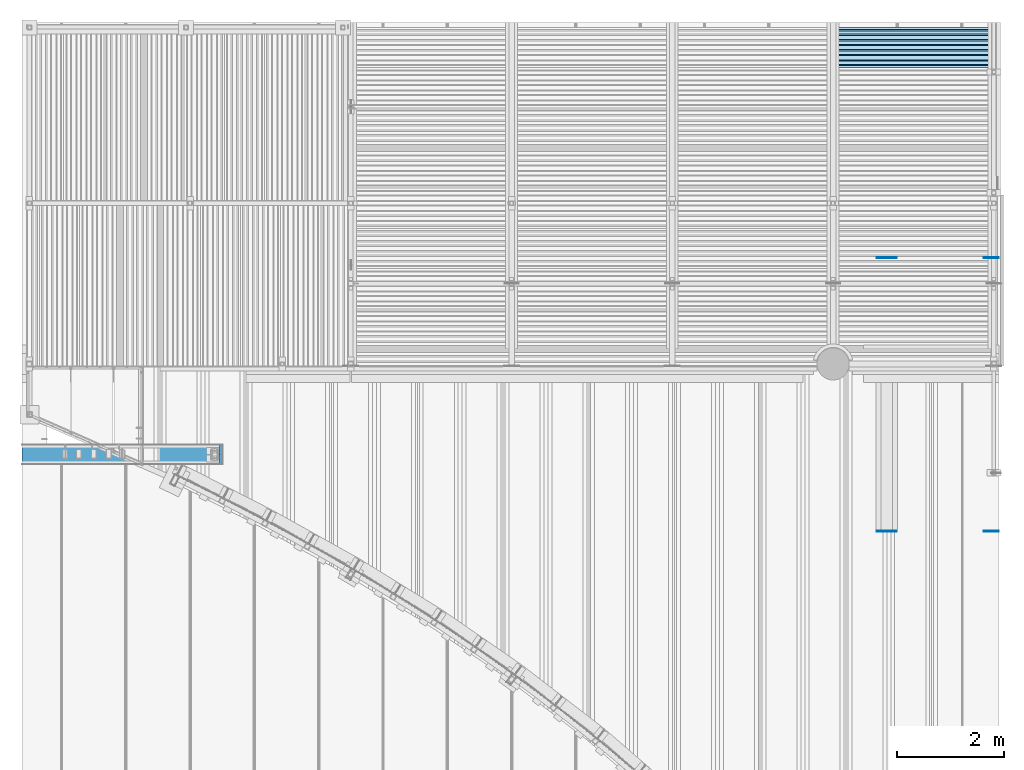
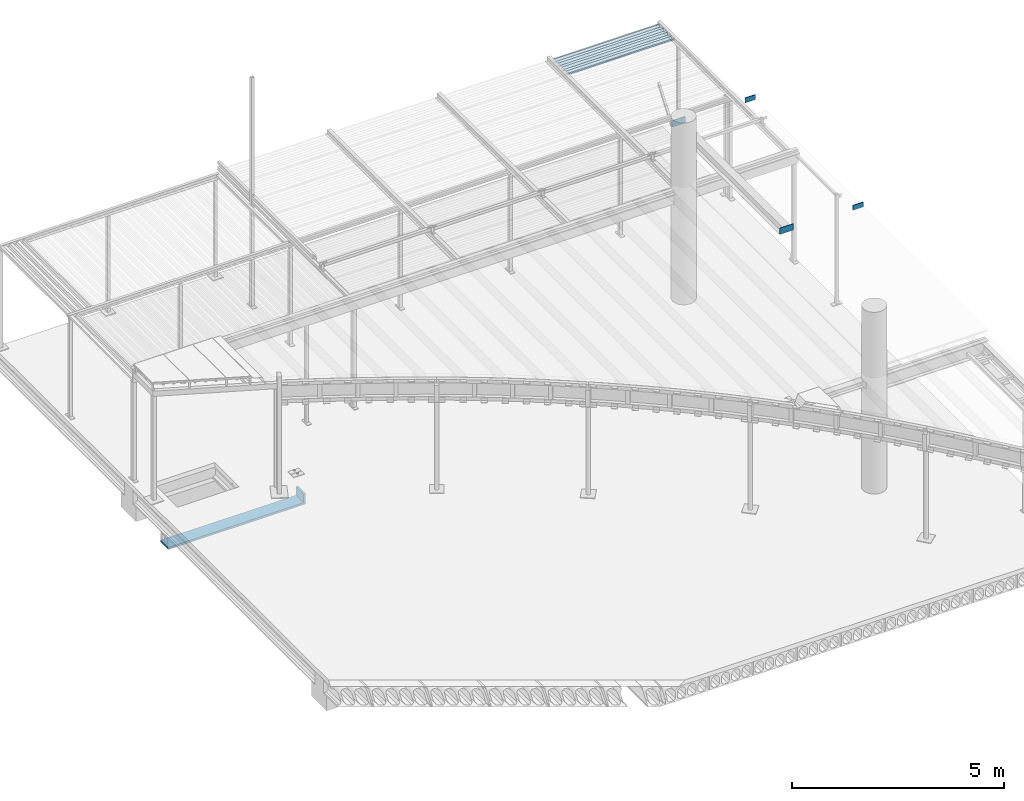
# One storey, part 98 of 98: 8 plates, 2 slabs, 1 wall.
"""IFC2X3 building model written with IfcOpenShell, lengths in millimetres."""

from ifc_helpers import new_model, entity, si_unit, converted_unit, derived_unit, direction, frame, origin_with_axes, place, context, subcontext, project, spatial, faceted_brep, material, type_object, element, save


model = new_model("IFC2X3")

# Units and contexts
model_context = context("Model", 3, precision=0.01, world=frame((0.0, 4.29681676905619e-09, 0.0)), true_north=direction((4.01073788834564e-13, 1.0)))
plan_context = context("Plan", 3, precision=0.01, world=frame((0.0, 4.29681676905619e-09, 0.0)), true_north=direction((4.01073788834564e-13, 1.0)))
body_context = subcontext(model_context, "Body", "Model", "MODEL_VIEW")
ifc_project = project(units=[converted_unit("PLANEANGLEUNIT", "DEGREE", entity("IfcPositiveLengthMeasure", 0.0174532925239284), si_unit("PLANEANGLEUNIT", "RADIAN"), dimensions=[0, 0, 0, 0, 0, 0, 0]), si_unit("AREAUNIT", "SQUARE_METRE"), si_unit("LENGTHUNIT", "METRE", prefix="MILLI"), si_unit("MASSUNIT", "GRAM", prefix="KILO"), si_unit("POWERUNIT", "WATT"), si_unit("PRESSUREUNIT", "PASCAL"), si_unit("FORCEUNIT", "NEWTON", prefix="KILO"), si_unit("ELECTRICCURRENTUNIT", "AMPERE"), si_unit("THERMODYNAMICTEMPERATUREUNIT", "DEGREE_CELSIUS"), si_unit("TIMEUNIT", "SECOND"), si_unit("VOLUMEUNIT", "CUBIC_METRE"), derived_unit("LINEARVELOCITYUNIT", [(si_unit("LENGTHUNIT", "METRE"), 1), (si_unit("TIMEUNIT", "SECOND"), -1)]), derived_unit("VOLUMETRICFLOWRATEUNIT", [(si_unit("VOLUMEUNIT", "CUBIC_METRE"), 1), (si_unit("TIMEUNIT", "SECOND"), -1)]), derived_unit("THERMALTRANSMITTANCEUNIT", [(si_unit("POWERUNIT", "WATT"), 1), (si_unit("THERMODYNAMICTEMPERATUREUNIT", "KELVIN"), -1), (si_unit("AREAUNIT", "SQUARE_METRE"), -1)])], contexts=[model_context, plan_context])

# Site, building, storey
site_placement = place(None, frame((0.0, -4.29681676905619e-09, 0.0), z_axis=(0.0, 0.0, 1.0), x_axis=(1.0, 0.0, 0.0)))
site = spatial("IfcSite", under=ifc_project, at=site_placement, Name="Gardermoen", CompositionType="ELEMENT")
building_placement = place(site_placement, frame((0.0, 4.29681676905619e-09, 0.0), z_axis=(0.0, 0.0, 1.0), x_axis=(1.0, 0.0, 0.0)))
building = spatial("IfcBuilding", under=site, at=building_placement, Name="TS", CompositionType="ELEMENT")
storey_placement = place(building_placement, origin_with_axes())
storey = spatial("IfcBuildingStorey", under=building, at=storey_placement, Name="D", CompositionType="ELEMENT", Elevation=0.0)

# Plates
ifc_material_1 = material(Name="STEEL/S355")
plate_type = type_object("IfcPlateType", Name="PL10*182", PredefinedType="NOTDEFINED")
for number, where, z_axis, x_axis, name in (
    (1, (529815.017445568, 411373.74, 207358.0), (1.0, 0.0, 0.0), (0.0, 0.0, 1.0), "STÅLSØYLE"),
    (2, (529815.017445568, 411383.74, 207358.0), (1.0, 0.0, 0.0), (0.0, 0.0, 1.0), "STÅLBJELKE"),
    (3, (530185.002554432, 416483.74, 207358.0), (-0.999999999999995, -9.99999902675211e-08, 0.0), (0.0, 0.0, 1.0), "STÅLSØYLE"),
    (4, (530185.002554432, 416473.74, 207358.0), (-0.999999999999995, -9.99999902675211e-08, 0.0), (0.0, 0.0, 1.0), "STÅLBJELKE"),
):
    element("IfcPlate", number, at=place(storey_placement, frame(where, z_axis=z_axis, x_axis=x_axis)), inside=storey, type_object=plate_type, material=ifc_material_1, Name=name, ObjectType="PL10*182", context=body_context, shape_type="Brep", body=[
        faceted_brep([(0.0, -5.0, 0.0), (2.91038304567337e-11, -5.0, 370.0), (2.91038304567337e-11, 5.0, 370.0), (0.0, 5.0, 0.0), (182.0, -5.0, 370.0), (182.0, 5.0, 370.0), (182.0, -5.0, 0.0), (182.0, 5.0, 0.0)], [[[0, 1, 2, 3]], [[1, 4, 5, 2]], [[4, 6, 7, 5]], [[6, 0, 3, 7]], [[5, 7, 3, 2]], [[6, 4, 1, 0]]]),
    ])
plate_1_placement = place(storey_placement, frame((532185.002554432, 416483.74, 207358.0), z_axis=(-0.999999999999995, -9.99999902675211e-08, 0.0), x_axis=(0.0, 0.0, 1.0)))
element("IfcPlate", 5, at=plate_1_placement, inside=storey, type_object=plate_type, Name="STÅLSØYLE", ObjectType="PL10*182", context=body_context, shape_type="Brep", body=[
    faceted_brep([(7.07947653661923e-12, -5.0, 90.0021157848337), (7.07947653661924e-12, 5.0, 90.0021157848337), (2.91038304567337e-11, 5.0, 370.0), (2.91038304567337e-11, -5.0, 370.0), (142.0, 5.0, 370.0), (142.0, -5.0, 370.0), (142.0, 5.00000000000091, 90.0025539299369), (142.0, -5.00000000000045, 90.0025549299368), (7.07951100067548e-12, 5.0, 90.0025539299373), (7.07951107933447e-12, -5.0, 90.0025549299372)], [[[0, 1, 2, 3]], [[4, 5, 3, 2]], [[1, 6, 4, 2]], [[5, 7, 0, 3]], [[6, 8, 9, 7]], [[7, 5, 4, 6]]], orient=[[False], [False], [False], [False], [False], [False]]),
])
plate_2_placement = place(storey_placement, frame((532185.002554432, 416473.74, 207358.0), z_axis=(-0.999999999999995, -9.99999902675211e-08, 0.0), x_axis=(0.0, 0.0, 1.0)))
element("IfcPlate", 6, at=plate_2_placement, inside=storey, type_object=plate_type, Name="STÅLBJELKE", ObjectType="PL10*182", context=body_context, shape_type="Brep", body=[
    faceted_brep([(7.07947645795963e-12, -5.0, 90.0021147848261), (7.07947645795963e-12, 5.0, 90.0021147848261), (2.91038304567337e-11, 5.0, 370.0), (2.91038304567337e-11, -5.0, 370.0), (142.0, 5.0, 370.0), (142.0, -5.0, 370.0), (142.0, 4.99999999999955, 90.0025539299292), (142.0, -5.0, 90.0025549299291), (7.07951100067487e-12, 5.0, 90.0025539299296), (7.07951107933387e-12, -5.0, 90.0025549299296)], [[[0, 1, 2, 3]], [[4, 5, 3, 2]], [[1, 6, 4, 2]], [[5, 7, 0, 3]], [[6, 8, 9, 7]], [[7, 5, 4, 6]]], orient=[[False], [False], [False], [False], [False], [False]]),
])
for number, where, z_axis, x_axis, name in (
    (7, (531815.017445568, 411373.74, 207358.0), (1.0, 0.0, 0.0), (0.0, 0.0, 1.0), "STÅLSØYLE"),
    (8, (531815.017445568, 411383.74, 207358.0), (1.0, 0.0, 0.0), (0.0, 0.0, 1.0), "STÅLBJELKE"),
):
    element("IfcPlate", number, at=place(storey_placement, frame(where, z_axis=z_axis, x_axis=x_axis)), inside=storey, type_object=plate_type, Name=name, ObjectType="PL10*182", context=body_context, shape_type="Brep", body=[
        faceted_brep([(2.20231480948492e-11, 5.0, 279.982554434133), (2.20231480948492e-11, -5.0, 279.982554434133), (0.0, -5.0, 0.0), (0.0, 5.0, 0.0), (142.0, -5.0, 0.0), (142.0, 5.0, 0.0), (142.0, 5.0, 279.982554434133), (142.0, -4.99999999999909, 279.982554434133)], [[[0, 1, 2, 3]], [[4, 5, 3, 2]], [[5, 6, 0, 3]], [[1, 7, 4, 2]], [[7, 1, 0, 6]], [[6, 5, 4, 7]]], orient=[[False], [False], [False], [False], [False], [False]]),
    ])

# Slabs
slab_type_1 = type_object("IfcSlabType", Name="PLANJA70", PredefinedType="NOTDEFINED")
slab_1_placement = place(storey_placement, frame((531950.000000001, 420404.996695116, 206958.849718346), z_axis=(0.0, 0.0, 1.0), x_axis=(-0.999999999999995, -9.99999902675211e-08, 0.0)))
element("IfcSlab", 9, at=slab_1_placement, inside=storey, type_object=slab_type_1, material=ifc_material_1, Name="STÅLTAK", ObjectType="PLANJA70", PredefinedType="FLOOR", context=body_context, shape_type="Brep", body=[
    faceted_brep([(0.0, 375.0, 34.1500015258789), (0.0, 335.299987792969, 34.1500015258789), (2900.00079747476, 335.299987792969, 34.1500015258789), (2900.00079747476, 375.0, 34.1500015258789), (0.0, 313.010681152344, -32.1500015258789), (2900.00079747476, 313.010681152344, -32.1500015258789), (0.0, 249.489303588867, -32.1500015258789), (2900.00079747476, 249.489303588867, -32.1500015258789), (0.0, 227.199996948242, 34.1500015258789), (2900.00079747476, 227.199996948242, 34.1500015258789), (0.0, 147.800003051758, 34.1500015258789), (2900.00079747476, 147.800003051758, 34.1500015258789), (0.0, 125.280120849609, -33.1500015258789), (2900.00079747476, 125.280120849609, -33.1500015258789), (0.0, 62.2198791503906, -33.1500015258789), (2900.00079747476, 62.2198791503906, -33.1500015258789), (0.0, 39.7000007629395, 34.1500015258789), (2900.00079747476, 39.7000007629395, 34.1500015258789), (0.0, -39.7000007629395, 34.1500015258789), (2900.00079747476, -39.7000007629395, 34.1500015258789), (0.0, -62.2198791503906, -33.1500015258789), (2900.00079747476, -62.2198791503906, -33.1500015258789), (0.0, -125.280120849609, -33.1500015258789), (2900.00079747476, -125.280120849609, -33.1500015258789), (0.0, -147.800003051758, 34.1500015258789), (2900.00079747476, -147.800003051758, 34.1500015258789), (0.0, -227.199996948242, 34.1500015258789), (2900.00079747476, -227.199996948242, 34.1500015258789), (0.0, -249.719879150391, -33.1500015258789), (2900.00079747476, -249.719879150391, -33.1500015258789), (0.0, -312.781188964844, -33.1500015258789), (2900.00079747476, -312.781188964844, -33.1500015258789), (0.0, -335.070495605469, 33.1500015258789), (2900.00079747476, -335.070495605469, 33.1500015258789), (0.0, -375.0, 33.1500015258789), (2900.00079747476, -375.0, 33.1500015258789), (0.0, -375.0, 32.1500015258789), (2900.00079747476, -375.0, 32.1500015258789), (0.0, -335.789306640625, 32.1500015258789), (2900.00079747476, -335.789306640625, 32.1500015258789), (0.0, -313.5, -34.1500015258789), (2900.00079747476, -313.5, -34.1500015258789), (0.0, -249.0, -34.1500015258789), (2900.00079747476, -249.0, -34.1500015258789), (0.0, -226.480117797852, 33.1500015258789), (2900.00079747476, -226.480117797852, 33.1500015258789), (0.0, -148.519882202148, 33.1500015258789), (2900.00079747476, -148.519882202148, 33.1500015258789), (0.0, -126.0, -34.1500015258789), (2900.00079747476, -126.0, -34.1500015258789), (0.0, -61.5, -34.1500015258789), (2900.00079747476, -61.5, -34.1500015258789), (0.0, -38.9801177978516, 33.1500015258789), (2900.00079747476, -38.9801177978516, 33.1500015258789), (0.0, 38.9801177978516, 33.1500015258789), (2900.00079747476, 38.9801177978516, 33.1500015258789), (0.0, 61.5, -34.1500015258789), (2900.00079747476, 61.5, -34.1500015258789), (0.0, 126.0, -34.1500015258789), (2900.00079747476, 126.0, -34.1500015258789), (0.0, 148.519882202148, 33.1500015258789), (2900.00079747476, 148.519882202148, 33.1500015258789), (0.0, 226.481185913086, 33.1500015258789), (2900.00079747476, 226.481185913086, 33.1500015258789), (0.0, 248.770492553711, -33.1500015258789), (2900.00079747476, 248.770492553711, -33.1500015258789), (0.0, 313.7294921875, -33.1500015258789), (2900.00079747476, 313.7294921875, -33.1500015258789), (0.0, 336.018798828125, 33.1500015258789), (2900.00079747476, 336.018798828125, 33.1500015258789), (0.0, 375.0, 33.1500015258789), (2900.00079747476, 375.0, 33.1500015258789)], [[[0, 1, 2, 3]], [[1, 4, 5, 2]], [[4, 6, 7, 5]], [[6, 8, 9, 7]], [[8, 10, 11, 9]], [[10, 12, 13, 11]], [[12, 14, 15, 13]], [[14, 16, 17, 15]], [[16, 18, 19, 17]], [[18, 20, 21, 19]], [[22, 23, 21, 20]], [[22, 24, 25, 23]], [[24, 26, 27, 25]], [[26, 28, 29, 27]], [[28, 30, 31, 29]], [[30, 32, 33, 31]], [[32, 34, 35, 33]], [[34, 36, 37, 35]], [[36, 38, 39, 37]], [[38, 40, 41, 39]], [[40, 42, 43, 41]], [[42, 44, 45, 43]], [[44, 46, 47, 45]], [[46, 48, 49, 47]], [[48, 50, 51, 49]], [[50, 52, 53, 51]], [[52, 54, 55, 53]], [[54, 56, 57, 55]], [[56, 58, 59, 57]], [[58, 60, 61, 59]], [[60, 62, 63, 61]], [[62, 64, 65, 63]], [[64, 66, 67, 65]], [[66, 68, 69, 67]], [[68, 70, 71, 69]], [[70, 0, 3, 71]], [[5, 7, 9, 11, 13, 15, 17, 19, 21, 23, 25, 27, 29, 31, 33, 35, 37, 39, 41, 43, 45, 47, 49, 51, 53, 55, 57, 59, 61, 63, 65, 67, 69, 71, 3, 2]], [[70, 68, 66, 64, 62, 60, 58, 56, 54, 52, 50, 48, 46, 44, 42, 40, 38, 36, 34, 32, 30, 28, 26, 24, 22, 20, 18, 16, 14, 12, 10, 8, 6, 4, 1, 0]]]),
])
ifc_material_2 = material(Name="MISCELLANEOUS/MINERALULL")
slab_type_2 = type_object("IfcSlabType", Name="60*245", PredefinedType="NOTDEFINED")
slab_2_placement = place(storey_placement, frame((517579.999766, 412629.999991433, 203400.0), z_axis=(0.0, 1.0, 0.0), x_axis=(0.0, 0.0, -1.0)))
element("IfcSlab", 10, at=slab_2_placement, inside=storey, type_object=slab_type_2, material=ifc_material_2, Name="ISOLASJON", ObjectType="60*245", PredefinedType="FLOOR", context=body_context, shape_type="Brep", body=[
    faceted_brep([(-1.45519152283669e-10, -30.0, 1.74622982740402e-10), (1.16415321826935e-10, -30.0, 360.0), (1.16415321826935e-10, 30.0, 360.0), (-1.45519152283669e-10, 30.0, 1.74622982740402e-10), (245.0, -30.0, 360.0), (245.0, 30.0, 360.0), (245.0, -30.0, 0.0), (245.0, 30.0, 0.0)], [[[0, 1, 2, 3]], [[1, 4, 5, 2]], [[4, 6, 7, 5]], [[6, 0, 3, 7]], [[5, 7, 3, 2]], [[6, 4, 1, 0]]]),
])

# Wall
wall_type = type_object("IfcWallType", Name="60*360", PredefinedType="NOTDEFINED")
wall_placement = place(storey_placement, frame((517609.999766, 412629.999991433, 203125.0), z_axis=(-1.0, 0.0, 0.0), x_axis=(0.0, 1.0, 0.0)))
element("IfcWall", 11, at=wall_placement, inside=storey, type_object=wall_type, Name="ISOLASJON", ObjectType="60*360", context=body_context, shape_type="Brep", body=[
    faceted_brep([(-1.45547573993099e-10, 30.0, 3747.50059001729), (-1.45547573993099e-10, -30.0, 3747.50059001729), (-1.45519152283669e-10, -30.0, 1.74622982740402e-10), (-1.45519152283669e-10, 30.0, 1.74622982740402e-10), (360.0, -30.0, 3747.50055401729), (360.0, 30.0, 3747.50055401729), (360.0, 30.0, -5.82076609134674e-11), (360.0, -30.0, -5.82076609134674e-11), (360.0, 30.0, 3747.50059901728), (360.0, -30.0, 3747.50059901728), (2.39155655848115e-10, -30.0, 3747.50059901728), (2.39155655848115e-10, 30.0, 3747.50059901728)], [[[0, 1, 2, 3]], [[4, 5, 6, 7]], [[6, 3, 2, 7]], [[5, 0, 3, 6]], [[1, 4, 7, 2]], [[8, 9, 10, 11]]], orient=[[False], [False], [False], [False], [False], [False]]),
])

save(model, "model.ifc")
